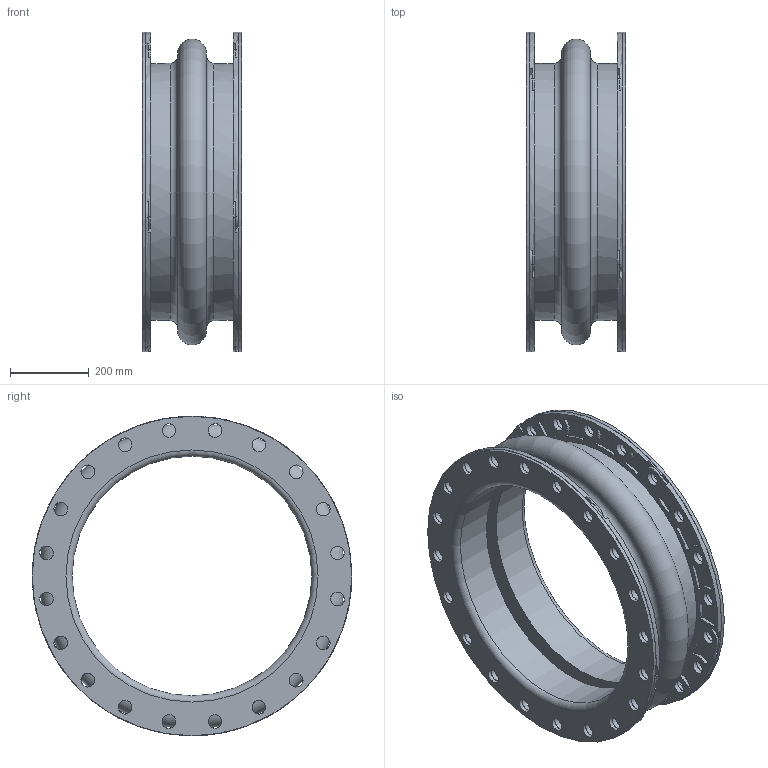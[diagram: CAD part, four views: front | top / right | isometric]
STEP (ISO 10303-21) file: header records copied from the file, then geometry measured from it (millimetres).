
FILE_DESCRIPTION(/* description */ (''),/* implementation_level */ '2;1');
FILE_NAME(/* name */ 'C:\001_Work\Designs\Mercer2014\MQInventor2014\RajR\500 Style\501\New folder\501 24IDx10FF.stp',/* time_stamp */ '2016-03-26T14:23:11-04:00',/* author */ ('rramoutar'),/* organization */ ('Mason Industries Inc.'),/* preprocessor_version */ 'ST-DEVELOPER v15.6',/* originating_system */ 'Autodesk Inventor 2015',/* authorisation */ '');
FILE_SCHEMA (('CONFIG_CONTROL_DESIGN'));
Length unit declared in the file: inch
Products named in the file (1): 501 24IDx10FF
Bounding box: 254 x 812.8 x 812.8 mm (x, y, z)
Volume: 22424126.1 mm3; surface area: 3012309 mm2
Topology: 1 solids, 1 shells, 612 faces, 1694 edges, 1126 vertices
Faces by surface type: cylinder 446, plane 144, torus 18, cone 4
Full cylindrical faces by diameter (mm): 34.925 x80, 609.6 x2, 654.05 x2, 812.8 x2
Entity records: 20780 total; most frequent: DIRECTION 3766, CARTESIAN_POINT 3713, ORIENTED_EDGE 3160, AXIS2_PLACEMENT_3D 1603, EDGE_CURVE 1580, VERTEX_POINT 1110, CIRCLE 990, EDGE_LOOP 914
